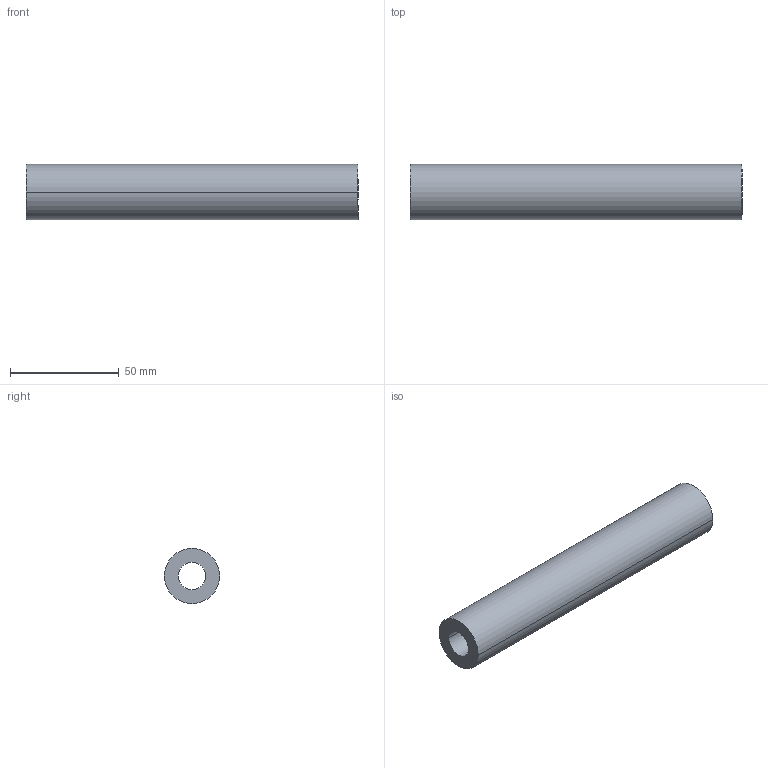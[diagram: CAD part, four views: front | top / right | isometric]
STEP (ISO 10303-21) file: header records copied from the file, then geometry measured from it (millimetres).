
FILE_DESCRIPTION (( 'STEP AP203' ), '1' );
FILE_NAME ('wssok6ss.STEP', '2020-01-24T16:16:53', ( '' ), ( '' ), 'SwSTEP 2.0', 'SolidWorks 2016', '' );
FILE_SCHEMA (( 'CONFIG_CONTROL_DESIGN' ));
Length unit declared in the file: inch
Products named in the file (2): wssok6ss; 87572505
Assembly tree (1 placements, depth 2):
  wssok6ss
    87572505
Bounding box: 152.4 x 25.4 x 25.4 mm (x, y, z)
Volume: 57916.7 mm3; surface area: 19001.5 mm2
Topology: 1 solids, 1 shells, 6 faces, 12 edges, 8 vertices
Faces by surface type: cylinder 4, plane 2
Entity records: 368 total; most frequent: DIRECTION 40, CARTESIAN_POINT 30, ORIENTED_EDGE 24, AXIS2_PLACEMENT_3D 18, PERSON_AND_ORGANIZATION 17, DATE_AND_TIME 12, LOCAL_TIME 12, COORDINATED_UNIVERSAL_TIME_OFFSET 12
